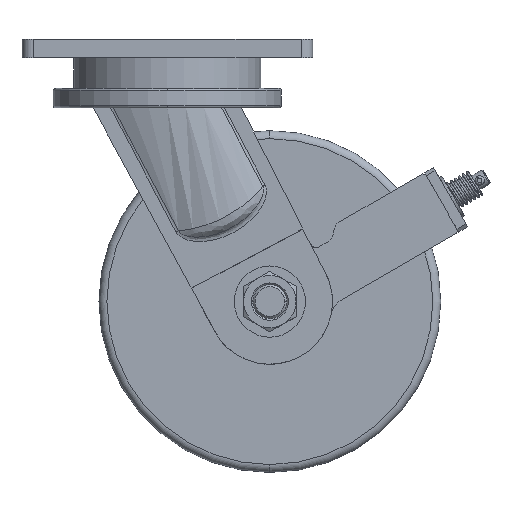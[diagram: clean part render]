
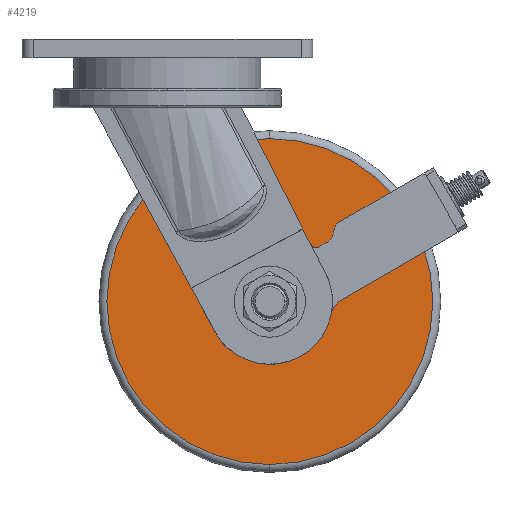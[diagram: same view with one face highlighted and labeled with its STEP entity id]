
A CAD part, left-side view. The second image highlights one B-rep face of the part: STEP entity #4219.
In plain terms, the highlighted planar face has unit normal (-1, 0, 0) as drawn and (0, 0, -1) by its records, which use the part's own axes.
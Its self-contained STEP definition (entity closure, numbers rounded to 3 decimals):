
#941=CARTESIAN_POINT('',(-198.069,-234.513,-328.069));
#942=VERTEX_POINT('',#941);
#960=CARTESIAN_POINT('',(-198.069,51.489,-328.069));
#961=VERTEX_POINT('',#960);
#969=CARTESIAN_POINT('',(-198.069,-91.512,-328.069));
#970=DIRECTION('',(0.0,0.0,1.0));
#971=DIRECTION('',(1.0,0.0,0.0));
#972=AXIS2_PLACEMENT_3D('',#969,#970,#971);
#973=CIRCLE('',#972,143.001);
#974=EDGE_CURVE('',#961,#942,#973,.T.);
#1208=CARTESIAN_POINT('',(-165.819,-91.512,-328.069));
#1209=VERTEX_POINT('',#1208);
#1218=CARTESIAN_POINT('',(-230.319,-91.512,-328.069));
#1219=VERTEX_POINT('',#1218);
#1220=CARTESIAN_POINT('',(-198.069,-91.512,-328.069));
#1221=DIRECTION('',(0.0,0.0,1.0));
#1222=DIRECTION('',(1.0,0.0,0.0));
#1223=AXIS2_PLACEMENT_3D('',#1220,#1221,#1222);
#1224=CIRCLE('',#1223,32.25);
#1225=EDGE_CURVE('',#1219,#1209,#1224,.T.);
#4065=CARTESIAN_POINT('',(-198.069,-91.512,-328.069));
#4066=DIRECTION('',(0.0,0.0,1.0));
#4067=DIRECTION('',(1.0,0.0,0.0));
#4068=AXIS2_PLACEMENT_3D('',#4065,#4066,#4067);
#4069=CIRCLE('',#4068,32.25);
#4070=EDGE_CURVE('',#1209,#1219,#4069,.T.);
#4191=CARTESIAN_POINT('',(-110.444,-91.512,-328.069));
#4192=DIRECTION('',(0.0,0.0,-1.0));
#4193=DIRECTION('',(0.0,1.0,0.0));
#4194=AXIS2_PLACEMENT_3D('',#4191,#4192,#4193);
#4195=PLANE('',#4194);
#4196=CARTESIAN_POINT('',(-55.068,-91.512,-328.069));
#4197=VERTEX_POINT('',#4196);
#4198=CARTESIAN_POINT('',(-198.069,-91.512,-328.069));
#4199=DIRECTION('',(0.0,0.0,1.0));
#4200=DIRECTION('',(1.0,0.0,0.0));
#4201=AXIS2_PLACEMENT_3D('',#4198,#4199,#4200);
#4202=CIRCLE('',#4201,143.001);
#4203=EDGE_CURVE('',#4197,#961,#4202,.T.);
#4204=ORIENTED_EDGE('',*,*,#4203,.F.);
#4205=CARTESIAN_POINT('',(-198.069,-91.512,-328.069));
#4206=DIRECTION('',(0.0,0.0,1.0));
#4207=DIRECTION('',(1.0,0.0,0.0));
#4208=AXIS2_PLACEMENT_3D('',#4205,#4206,#4207);
#4209=CIRCLE('',#4208,143.001);
#4210=EDGE_CURVE('',#942,#4197,#4209,.T.);
#4211=ORIENTED_EDGE('',*,*,#4210,.F.);
#4212=ORIENTED_EDGE('',*,*,#974,.F.);
#4213=EDGE_LOOP('',(#4204,#4211,#4212));
#4214=FACE_OUTER_BOUND('',#4213,.T.);
#4215=ORIENTED_EDGE('',*,*,#4070,.T.);
#4216=ORIENTED_EDGE('',*,*,#1225,.T.);
#4217=EDGE_LOOP('',(#4215,#4216));
#4218=FACE_BOUND('',#4217,.T.);
#4219=ADVANCED_FACE('',(#4214,#4218),#4195,.T.);
